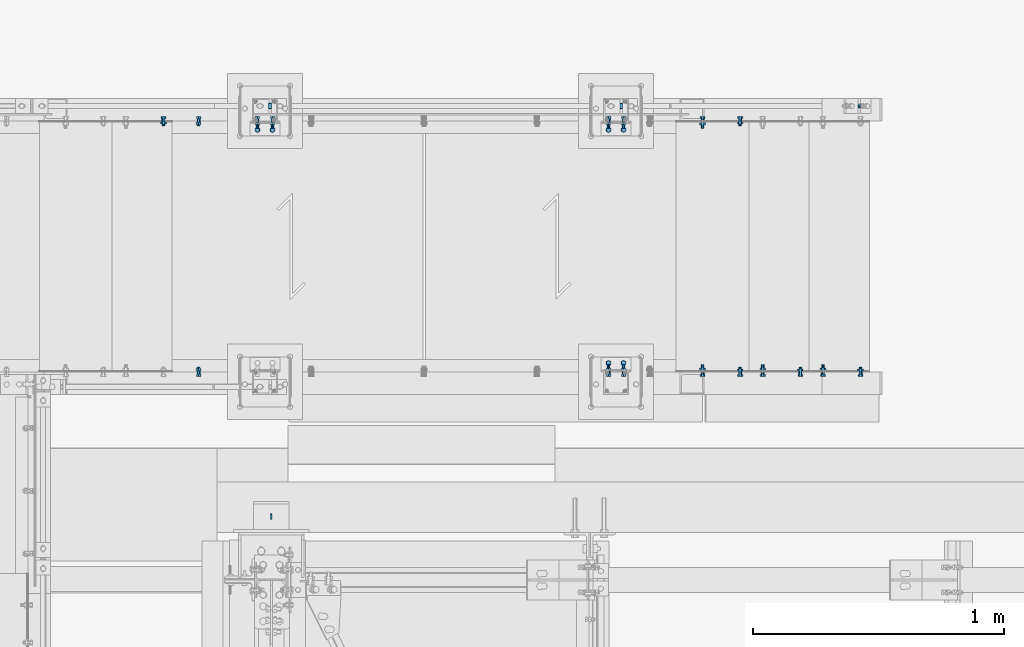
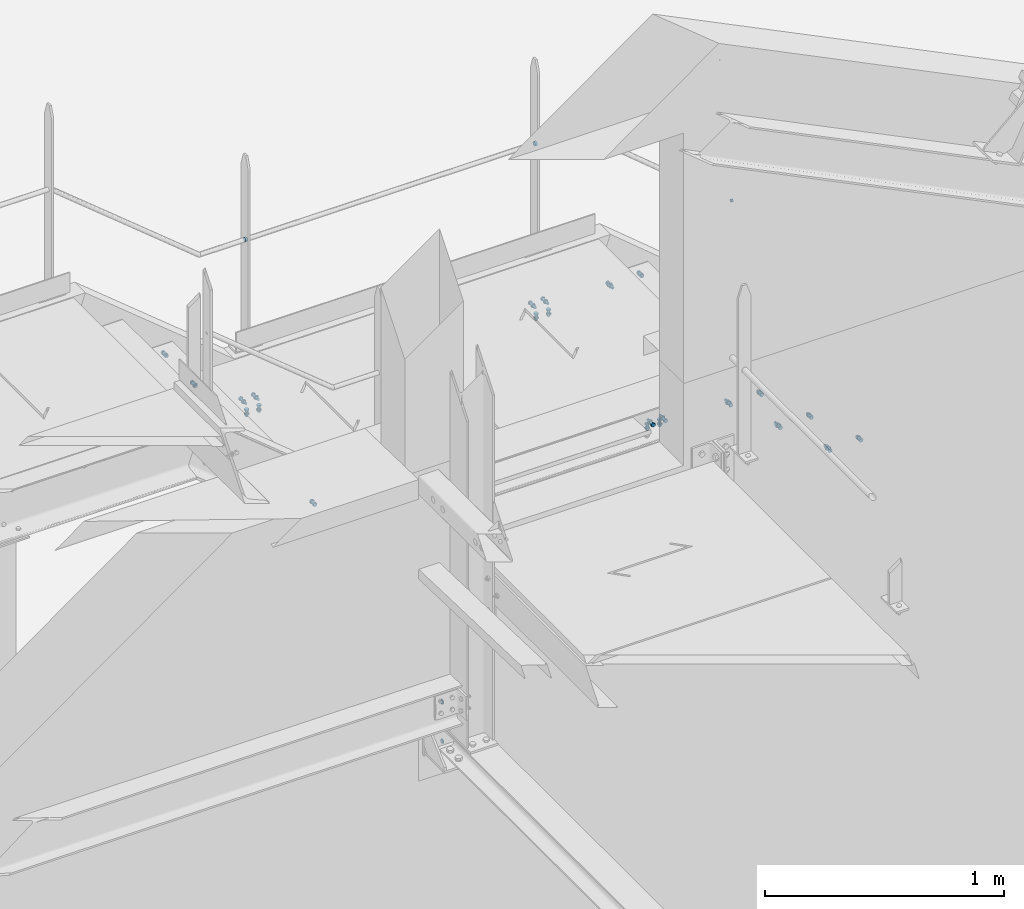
# One storey, part 338 of 362: 22 mechanical fasteners.
"""IFC2X3 building model written with IfcOpenShell, lengths in millimetres."""

from ifc_helpers import new_model, si_unit, frame, frame_2d, origin_with_axes, origin_2d_with_axis, place, context, subcontext, project, spatial, polyline, circle_curve, parameter, trimmed, segment, composite_curve, circle, outline, extrude, source, transform, mapped, material, type_object, element, save


model = new_model("IFC2X3")

# Units and contexts
model_context = context("Model", 3, precision=1e-05, world=origin_with_axes())
body_context = subcontext(model_context, "Body", "Model", "MODEL_VIEW")
ifc_project = project(units=[si_unit("LENGTHUNIT", "METRE", prefix="MILLI"), si_unit("AREAUNIT", "SQUARE_METRE"), si_unit("VOLUMEUNIT", "CUBIC_METRE"), si_unit("MASSUNIT", "GRAM", prefix="KILO"), si_unit("TIMEUNIT", "SECOND"), si_unit("PLANEANGLEUNIT", "RADIAN"), si_unit("SOLIDANGLEUNIT", "STERADIAN"), si_unit("THERMODYNAMICTEMPERATUREUNIT", "DEGREE_CELSIUS"), si_unit("LUMINOUSINTENSITYUNIT", "LUMEN")], contexts=[model_context])

# Site, building, storey
site_placement = place(None, origin_with_axes())
site = spatial("IfcSite", under=ifc_project, at=site_placement, Name="Undefined", CompositionType="ELEMENT")
building_placement = place(site_placement, origin_with_axes())
building = spatial("IfcBuilding", under=site, at=building_placement, Name="Undefined", CompositionType="ELEMENT")
storey_placement = place(building_placement, origin_with_axes())
storey = spatial("IfcBuildingStorey", under=building, at=storey_placement, Name="Undefined", CompositionType="ELEMENT", Elevation=0.0)

# Mechanical fasteners
ifc_material_1 = material(Name="6.8")
mechanical_fastener_type = type_object("IfcMechanicalFastenerType", Name="Bolt assembly")
shared_shape_1 = source(origin_with_axes(), body_context, "Body", "SweptSolid", [
    extrude(circle(Radius=11.0, at=origin_2d_with_axis()), frame((0.0, -5.00000000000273, 0.0), z_axis=(0.0, 1.0, 0.0), x_axis=(1.0, 0.0, 0.0)), (0.0, 0.0, 1.0), 10.1),
])
for number, where, z_axis, x_axis, name in (
    (1, (35675.0061849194, 17089.9938659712, 8653.7999407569), (0.0, 0.0, -1.0), (0.0, -1.0, 0.0), "Bolt assembly"),
    (2, (34275.0061849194, 17089.9938659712, 8653.7999407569), (0.0, 0.0, -1.0), (0.0, -1.0, 0.0), "Bolt assembly"),
):
    element("IfcMechanicalFastener", number, at=place(storey_placement, frame(where, z_axis=z_axis, x_axis=x_axis)), inside=storey, type_object=mechanical_fastener_type, material=ifc_material_1, Name=name, NominalDiameter=20.0, NominalLength=10.0, context=body_context, shape_type="MappedRepresentation", body=[
        mapped(shared_shape_1, transform((0.0, 0.0, 0.0))),
    ])
shared_shape_2 = source(origin_with_axes(), body_context, "Body", "SweptSolid", [
    extrude(circle(Radius=7.0, at=origin_2d_with_axis()), frame((0.0, -10.0000010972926, 0.0), z_axis=(0.0, 1.0, 0.0), x_axis=(1.0, 0.0, 0.0)), (0.0, 0.0, 1.0), 10.1),
])
mechanical_fastener_1_placement = place(storey_placement, frame((36620.0061849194, 17089.9938659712, 8029.89862662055), z_axis=(0.0, 0.0, -1.0), x_axis=(0.0, -1.0, 0.0)))
element("IfcMechanicalFastener", 3, at=mechanical_fastener_1_placement, inside=storey, type_object=mechanical_fastener_type, material=ifc_material_1, Name="Bolt assembly", NominalDiameter=12.0, NominalLength=10.0, context=body_context, shape_type="MappedRepresentation", body=[
    mapped(shared_shape_2, transform((0.0, 0.0, 0.0))),
])
ifc_material_2 = material(Name="8.8-SB-GALVA")
shared_shape_3 = source(origin_with_axes(), body_context, "Body", "SweptSolid", [
    extrude(circle(Radius=7.0, at=origin_2d_with_axis()), frame((0.0, -0.10007666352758, 0.0), z_axis=(0.0, 1.0, 0.0), x_axis=(1.0, 0.0, 0.0)), (0.0, 0.0, 1.0), 8.1),
    extrude(circle(Radius=7.0, at=origin_2d_with_axis()), frame((0.0, -5.8999542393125, 0.0), z_axis=(0.0, 1.0, 0.0), x_axis=(1.0, 0.0, 0.0)), (0.0, 0.0, 1.0), 6.0),
    extrude(outline(polyline([(10.39230484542, 0.0), (5.19615242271, 9.00000000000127), (-5.19615242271, 9.00000000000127), (-10.39230484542, 0.0), (-5.19615242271, -9.00000000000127), (5.19615242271, -9.00000000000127), (10.39230484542, 0.0)])), frame((0.0, -13.9199542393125, 0.0), z_axis=(0.0, 1.0, 0.0), x_axis=(1.0, 0.0, 0.0)), (0.0, 0.0, 1.0), 7.92),
    extrude(circle(Radius=6.0, at=origin_2d_with_axis()), frame((0.0, -5.9999542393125, 0.0), z_axis=(0.0, 1.0, 0.0), x_axis=(1.0, 0.0, 0.0)), (0.0, 0.0, 1.0), 30.0),
    extrude(outline(polyline([(11.5008173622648, 0.0), (5.7504086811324, 9.96000000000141), (-5.7504086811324, 9.96000000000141), (-11.5008173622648, 0.0), (-5.7504086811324, -9.96000000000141), (5.7504086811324, -9.96000000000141), (11.5008173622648, 0.0)])), frame((0.0, 7.99992914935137, 0.0), z_axis=(0.0, 1.0, 0.0), x_axis=(1.0, 0.0, 0.0)), (0.0, 0.0, 1.0), 7.92),
])
mechanical_fastener_2_placement = place(storey_placement, frame((35655.0000000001, 16064.9999136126, 7849.9999407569), z_axis=(1.0, 0.0, 0.0), x_axis=(0.0, -1.0, 0.0)))
element("IfcMechanicalFastener", 4, at=mechanical_fastener_2_placement, inside=storey, type_object=mechanical_fastener_type, material=ifc_material_2, Name="Bolt assembly", NominalDiameter=12.0, NominalLength=30.0, context=body_context, shape_type="MappedRepresentation", body=[
    mapped(shared_shape_3, transform((0.0, 0.0, 30.0))),
    mapped(shared_shape_3, transform((0.0, 0.0, -30.0))),
])
for number, where, z_axis, x_axis, name in (
    (5, (34255.0000000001, 16994.9996684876, 7849.9999407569), (-1.0, 0.0, 0.0), (0.0, 1.0, 0.0), "Bolt assembly"),
    (6, (35655.0000000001, 16994.9996684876, 7849.9999407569), (-1.0, 0.0, 0.0), (0.0, 1.0, 0.0), "Bolt assembly"),
):
    element("IfcMechanicalFastener", number, at=place(storey_placement, frame(where, z_axis=z_axis, x_axis=x_axis)), inside=storey, type_object=mechanical_fastener_type, material=ifc_material_2, Name=name, NominalDiameter=12.0, NominalLength=30.0, context=body_context, shape_type="MappedRepresentation", body=[
        mapped(shared_shape_3, transform((0.0, 0.0, -30.0))),
        mapped(shared_shape_3, transform((0.0, 0.0, 30.0))),
    ])
shared_shape_4 = source(origin_with_axes(), body_context, "Body", "SweptSolid", [
    extrude(circle(Radius=7.0, at=origin_2d_with_axis()), frame((0.0, -9.90024512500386, 0.0), z_axis=(0.0, 1.0, 0.0), x_axis=(1.0, 0.0, 0.0)), (0.0, 0.0, 1.0), 10.0),
    extrude(circle(Radius=7.0, at=origin_2d_with_axis()), frame((0.0, -0.100011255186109, 0.0), z_axis=(0.0, 1.0, 0.0), x_axis=(1.0, 0.0, 0.0)), (0.0, 0.0, 1.0), 6.1),
    extrude(outline(polyline([(10.39230484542, 0.0), (5.19615242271, 9.00000000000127), (-5.19615242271, 9.00000000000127), (-10.39230484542, 0.0), (-5.19615242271, -9.00000000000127), (5.19615242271, -9.00000000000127), (10.39230484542, 0.0)])), frame((0.0, -17.9202451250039, 0.0), z_axis=(0.0, 1.0, 0.0), x_axis=(1.0, 0.0, 0.0)), (0.0, 0.0, 1.0), 7.92),
    extrude(circle(Radius=6.0, at=origin_2d_with_axis()), frame((0.0, -10.0002451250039, 0.0), z_axis=(0.0, 1.0, 0.0), x_axis=(1.0, 0.0, 0.0)), (0.0, 0.0, 1.0), 40.0),
    extrude(outline(polyline([(11.5008173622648, 0.0), (5.7504086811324, 9.96000000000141), (-5.7504086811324, 9.96000000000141), (-11.5008173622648, 0.0), (-5.7504086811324, -9.96000000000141), (5.7504086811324, -9.96000000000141), (11.5008173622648, 0.0)])), frame((0.0, 6.0, 0.0), z_axis=(0.0, 1.0, 0.0), x_axis=(1.0, 0.0, 0.0)), (0.0, 0.0, 1.0), 7.92),
])
mechanical_fastener_3_placement = place(storey_placement, frame((35655.0000000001, 16029.9999136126, 7884.9999407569), z_axis=(1.0, 0.0, 0.0), x_axis=(0.0, 0.0, -1.0)))
element("IfcMechanicalFastener", 7, at=mechanical_fastener_3_placement, inside=storey, type_object=mechanical_fastener_type, material=ifc_material_2, Name="Bolt assembly", NominalDiameter=12.0, NominalLength=40.0, context=body_context, shape_type="MappedRepresentation", body=[
    mapped(shared_shape_4, transform((0.0, 0.0, 30.0))),
    mapped(shared_shape_4, transform((0.0, 0.0, -30.0))),
])
shared_shape_5 = source(origin_with_axes(), body_context, "Body", "SweptSolid", [
    extrude(circle(Radius=7.0, at=origin_2d_with_axis()), frame((0.0, -9.9, 0.0), z_axis=(0.0, 1.0, 0.0), x_axis=(1.0, 0.0, 0.0)), (0.0, 0.0, 1.0), 10.0),
    extrude(circle(Radius=7.0, at=origin_2d_with_axis()), frame((0.0, -0.100011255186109, 0.0), z_axis=(0.0, 1.0, 0.0), x_axis=(1.0, 0.0, 0.0)), (0.0, 0.0, 1.0), 3.1),
    extrude(outline(polyline([(10.39230484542, 0.0), (5.19615242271, 9.00000000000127), (-5.19615242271, 9.00000000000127), (-10.39230484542, 0.0), (-5.19615242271, -9.00000000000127), (5.19615242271, -9.00000000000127), (10.39230484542, 0.0)])), frame((0.0, -17.92, 0.0), z_axis=(0.0, 1.0, 0.0), x_axis=(1.0, 0.0, 0.0)), (0.0, 0.0, 1.0), 7.92),
    extrude(circle(Radius=6.0, at=origin_2d_with_axis()), frame((0.0, -10.0000010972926, 0.0), z_axis=(0.0, 1.0, 0.0), x_axis=(1.0, 0.0, 0.0)), (0.0, 0.0, 1.0), 30.0),
    extrude(outline(polyline([(11.5008173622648, 0.0), (5.7504086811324, 9.96000000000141), (-5.7504086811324, 9.96000000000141), (-11.5008173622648, 0.0), (-5.7504086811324, -9.96000000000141), (5.7504086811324, -9.96000000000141), (11.5008173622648, 0.0)])), frame((0.0, 3.00000067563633, 0.0), z_axis=(0.0, 1.0, 0.0), x_axis=(1.0, 0.0, 0.0)), (0.0, 0.0, 1.0), 7.92),
])
for number, where, z_axis, x_axis, name in (
    (8, (36149.9999902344, 16029.9996684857, 7854.9999407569), (0.0, 0.0, -1.0), (-1.0, 0.0, 0.0), "Bolt assembly"),
    (9, (36389.9999902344, 16029.9996684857, 7655.0), (0.0, 0.0, -1.0), (-1.0, 0.0, 0.0), "Bolt assembly"),
    (10, (36629.9999902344, 16029.9996684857, 7455.0), (0.0, 0.0, -1.0), (-1.0, 0.0, 0.0), "Bolt assembly"),
):
    element("IfcMechanicalFastener", number, at=place(storey_placement, frame(where, z_axis=z_axis, x_axis=x_axis)), inside=storey, type_object=mechanical_fastener_type, material=ifc_material_2, Name=name, NominalDiameter=12.0, NominalLength=30.0, context=body_context, shape_type="MappedRepresentation", body=[
        mapped(shared_shape_5, transform((0.0, 0.0, 0.0))),
    ])
shared_shape_6 = source(origin_with_axes(), body_context, "Body", "SweptSolid", [
    extrude(circle(Radius=7.0, at=origin_2d_with_axis()), frame((0.0, -9.89685977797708, 0.0), z_axis=(0.0, 1.0, 0.0), x_axis=(1.0, 0.0, 0.0)), (0.0, 0.0, 1.0), 10.0),
    extrude(circle(Radius=7.0, at=origin_2d_with_axis()), frame((0.0, -0.100011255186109, 0.0), z_axis=(0.0, 1.0, 0.0), x_axis=(1.0, 0.0, 0.0)), (0.0, 0.0, 1.0), 3.1),
    extrude(outline(polyline([(10.39230484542, 0.0), (5.19615242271, 9.00000000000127), (-5.19615242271, 9.00000000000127), (-10.39230484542, 0.0), (-5.19615242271, -9.00000000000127), (5.19615242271, -9.00000000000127), (10.39230484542, 0.0)])), frame((0.0, -17.9168597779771, 0.0), z_axis=(0.0, 1.0, 0.0), x_axis=(1.0, 0.0, 0.0)), (0.0, 0.0, 1.0), 7.92),
    extrude(circle(Radius=6.0, at=origin_2d_with_axis()), frame((0.0, -9.99685977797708, 0.0), z_axis=(0.0, 1.0, 0.0), x_axis=(1.0, 0.0, 0.0)), (0.0, 0.0, 1.0), 30.0),
    extrude(outline(polyline([(11.5008173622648, 0.0), (5.7504086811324, 9.96000000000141), (-5.7504086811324, 9.96000000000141), (-11.5008173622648, 0.0), (-5.7504086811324, -9.96000000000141), (5.7504086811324, -9.96000000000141), (11.5008173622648, 0.0)])), frame((0.0, 3.00000067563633, 0.0), z_axis=(0.0, 1.0, 0.0), x_axis=(1.0, 0.0, 0.0)), (0.0, 0.0, 1.0), 7.92),
])
mechanical_fastener_4_placement = place(storey_placement, frame((33849.9999902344, 17029.9999136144, 8251.6699407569), z_axis=(0.0, 0.0, 1.0), x_axis=(-1.0, 0.0, 0.0)))
element("IfcMechanicalFastener", 11, at=mechanical_fastener_4_placement, inside=storey, type_object=mechanical_fastener_type, material=ifc_material_2, Name="Bolt assembly", NominalDiameter=12.0, NominalLength=30.0, context=body_context, shape_type="MappedRepresentation", body=[
    mapped(shared_shape_6, transform((0.0, 0.0, 0.0))),
])
shared_shape_7 = source(origin_with_axes(), body_context, "Body", "SweptSolid", [
    extrude(circle(Radius=7.0, at=origin_2d_with_axis()), frame((0.0, -9.89975487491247, 0.0), z_axis=(0.0, 1.0, 0.0), x_axis=(1.0, 0.0, 0.0)), (0.0, 0.0, 1.0), 10.0),
    extrude(outline(composite_curve([segment(polyline([(-7.0, 7.0), (7.0, 7.0)]), True, "CONTINUOUS"), segment(trimmed(circle_curve(frame_2d((7.0, 0.0), x_axis=(0.0, 1.0)), 7.0), [parameter(0.0)], [parameter(3.14159265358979)], False, "PARAMETER"), True, "CONTINUOUS"), segment(polyline([(7.0, -7.0), (-7.0, -7.0)]), True, "CONTINUOUS"), segment(trimmed(circle_curve(frame_2d((-7.0, 0.0), x_axis=(0.0, -1.0)), 7.0), [parameter(0.0)], [parameter(3.14159265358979)], False, "PARAMETER"), True, "DISCONTINUOUS")], self_intersect=False)), frame((0.0, -0.100011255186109, 0.0), z_axis=(0.0, 1.0, 0.0), x_axis=(1.0, 0.0, 0.0)), (0.0, 0.0, 1.0), 3.1),
    extrude(outline(polyline([(10.39230484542, 0.0), (5.19615242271, 9.00000000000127), (-5.19615242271, 9.00000000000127), (-10.39230484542, 0.0), (-5.19615242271, -9.00000000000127), (5.19615242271, -9.00000000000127), (10.39230484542, 0.0)])), frame((0.0, -17.9197548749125, 0.0), z_axis=(0.0, 1.0, 0.0), x_axis=(1.0, 0.0, 0.0)), (0.0, 0.0, 1.0), 7.92),
    extrude(circle(Radius=6.0, at=origin_2d_with_axis()), frame((0.0, -9.99975487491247, 0.0), z_axis=(0.0, 1.0, 0.0), x_axis=(1.0, 0.0, 0.0)), (0.0, 0.0, 1.0), 40.0),
    extrude(circle(Radius=10.8, at=origin_2d_with_axis()), frame((0.0, 3.00000067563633, 0.0), z_axis=(0.0, 1.0, 0.0), x_axis=(1.0, 0.0, 0.0)), (0.0, 0.0, 1.0), 3.96),
    extrude(outline(polyline([(11.5008173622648, 0.0), (5.7504086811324, 9.96000000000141), (-5.7504086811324, 9.96000000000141), (-11.5008173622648, 0.0), (-5.7504086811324, -9.96000000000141), (5.7504086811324, -9.96000000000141), (11.5008173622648, 0.0)])), frame((0.0, 6.96, 0.0), z_axis=(0.0, 1.0, 0.0), x_axis=(1.0, 0.0, 0.0)), (0.0, 0.0, 1.0), 7.92),
])
mechanical_fastener_5_placement = place(storey_placement, frame((35999.9999902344, 17029.9999136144, 7854.9999407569), z_axis=(0.0, 0.0, 1.0), x_axis=(-1.0, 0.0, 0.0)))
element("IfcMechanicalFastener", 12, at=mechanical_fastener_5_placement, inside=storey, type_object=mechanical_fastener_type, material=ifc_material_2, Name="Bolt assembly", NominalDiameter=12.0, NominalLength=40.0, context=body_context, shape_type="MappedRepresentation", body=[
    mapped(shared_shape_7, transform((0.0, 0.0, 0.0))),
])
shared_shape_8 = source(origin_with_axes(), body_context, "Body", "SweptSolid", [
    extrude(circle(Radius=7.0, at=origin_2d_with_axis()), frame((0.0, -9.89975487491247, 0.0), z_axis=(0.0, 1.0, 0.0), x_axis=(1.0, 0.0, 0.0)), (0.0, 0.0, 1.0), 10.0),
    extrude(circle(Radius=7.0, at=origin_2d_with_axis()), frame((0.0, -0.100011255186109, 0.0), z_axis=(0.0, 1.0, 0.0), x_axis=(1.0, 0.0, 0.0)), (0.0, 0.0, 1.0), 3.1),
    extrude(outline(polyline([(10.39230484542, 0.0), (5.19615242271, 9.00000000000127), (-5.19615242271, 9.00000000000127), (-10.39230484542, 0.0), (-5.19615242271, -9.00000000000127), (5.19615242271, -9.00000000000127), (10.39230484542, 0.0)])), frame((0.0, -17.9197548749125, 0.0), z_axis=(0.0, 1.0, 0.0), x_axis=(1.0, 0.0, 0.0)), (0.0, 0.0, 1.0), 7.92),
    extrude(circle(Radius=6.0, at=origin_2d_with_axis()), frame((0.0, -9.99975487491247, 0.0), z_axis=(0.0, 1.0, 0.0), x_axis=(1.0, 0.0, 0.0)), (0.0, 0.0, 1.0), 30.0),
    extrude(outline(polyline([(11.5008173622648, 0.0), (5.7504086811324, 9.96000000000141), (-5.7504086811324, 9.96000000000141), (-11.5008173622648, 0.0), (-5.7504086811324, -9.96000000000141), (5.7504086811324, -9.96000000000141), (11.5008173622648, 0.0)])), frame((0.0, 3.00000067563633, 0.0), z_axis=(0.0, 1.0, 0.0), x_axis=(1.0, 0.0, 0.0)), (0.0, 0.0, 1.0), 7.92),
])
mechanical_fastener_6_placement = place(storey_placement, frame((36149.9999902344, 17029.9999136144, 7854.9999407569), z_axis=(0.0, 0.0, 1.0), x_axis=(-1.0, 0.0, 0.0)))
element("IfcMechanicalFastener", 13, at=mechanical_fastener_6_placement, inside=storey, type_object=mechanical_fastener_type, material=ifc_material_2, Name="Bolt assembly", NominalDiameter=12.0, NominalLength=30.0, context=body_context, shape_type="MappedRepresentation", body=[
    mapped(shared_shape_8, transform((0.0, 0.0, 0.0))),
])
shared_shape_9 = source(origin_with_axes(), body_context, "Body", "SweptSolid", [
    extrude(circle(Radius=7.0, at=origin_2d_with_axis()), frame((0.0, -9.9, 0.0), z_axis=(0.0, 1.0, 0.0), x_axis=(1.0, 0.0, 0.0)), (0.0, 0.0, 1.0), 10.0),
    extrude(outline(composite_curve([segment(polyline([(-7.0, 7.0), (7.0, 7.0)]), True, "CONTINUOUS"), segment(trimmed(circle_curve(frame_2d((7.0, 0.0), x_axis=(0.0, 1.0)), 7.0), [parameter(0.0)], [parameter(3.14159265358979)], False, "PARAMETER"), True, "CONTINUOUS"), segment(polyline([(7.0, -7.0), (-7.0, -7.0)]), True, "CONTINUOUS"), segment(trimmed(circle_curve(frame_2d((-7.0, 0.0), x_axis=(0.0, -1.0)), 7.0), [parameter(0.0)], [parameter(3.14159265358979)], False, "PARAMETER"), True, "DISCONTINUOUS")], self_intersect=False)), frame((0.0, -0.100011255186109, 0.0), z_axis=(0.0, 1.0, 0.0), x_axis=(1.0, 0.0, 0.0)), (0.0, 0.0, 1.0), 3.1),
    extrude(outline(polyline([(10.39230484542, 0.0), (5.19615242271, 9.00000000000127), (-5.19615242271, 9.00000000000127), (-10.39230484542, 0.0), (-5.19615242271, -9.00000000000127), (5.19615242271, -9.00000000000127), (10.39230484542, 0.0)])), frame((0.0, -17.92, 0.0), z_axis=(0.0, 1.0, 0.0), x_axis=(1.0, 0.0, 0.0)), (0.0, 0.0, 1.0), 7.92),
    extrude(circle(Radius=6.0, at=origin_2d_with_axis()), frame((0.0, -10.0000010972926, 0.0), z_axis=(0.0, 1.0, 0.0), x_axis=(1.0, 0.0, 0.0)), (0.0, 0.0, 1.0), 40.0),
    extrude(circle(Radius=10.8, at=origin_2d_with_axis()), frame((0.0, 3.00000067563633, 0.0), z_axis=(0.0, 1.0, 0.0), x_axis=(1.0, 0.0, 0.0)), (0.0, 0.0, 1.0), 3.96),
    extrude(outline(polyline([(11.5008173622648, 0.0), (5.7504086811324, 9.96000000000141), (-5.7504086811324, 9.96000000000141), (-11.5008173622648, 0.0), (-5.7504086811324, -9.96000000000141), (5.7504086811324, -9.96000000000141), (11.5008173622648, 0.0)])), frame((0.0, 6.96, 0.0), z_axis=(0.0, 1.0, 0.0), x_axis=(1.0, 0.0, 0.0)), (0.0, 0.0, 1.0), 7.92),
])
mechanical_fastener_7_placement = place(storey_placement, frame((35999.9999902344, 16029.9996684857, 7854.9999407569), z_axis=(0.0, 0.0, -1.0), x_axis=(-1.0, 0.0, 0.0)))
element("IfcMechanicalFastener", 14, at=mechanical_fastener_7_placement, inside=storey, type_object=mechanical_fastener_type, material=ifc_material_2, Name="Bolt assembly", NominalDiameter=12.0, NominalLength=40.0, context=body_context, shape_type="MappedRepresentation", body=[
    mapped(shared_shape_9, transform((0.0, 0.0, 0.0))),
])
shared_shape_10 = source(origin_with_axes(), body_context, "Body", "SweptSolid", [
    extrude(circle(Radius=7.0, at=origin_2d_with_axis()), frame((0.0, -9.9, 0.0), z_axis=(0.0, 1.0, 0.0), x_axis=(1.0, 0.0, 0.0)), (0.0, 0.0, 1.0), 10.0),
    extrude(outline(composite_curve([segment(polyline([(-7.0, 7.0), (7.0, 7.0)]), True, "CONTINUOUS"), segment(trimmed(circle_curve(frame_2d((7.0, 0.0), x_axis=(0.0, 1.0)), 7.0), [parameter(0.0)], [parameter(3.14159265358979)], False, "PARAMETER"), True, "CONTINUOUS"), segment(polyline([(7.0, -7.0), (-7.0, -7.0)]), True, "CONTINUOUS"), segment(trimmed(circle_curve(frame_2d((-7.0, 0.0), x_axis=(0.0, -1.0)), 7.0), [parameter(0.0)], [parameter(3.14159265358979)], False, "PARAMETER"), True, "DISCONTINUOUS")], self_intersect=False)), frame((0.0, -0.100011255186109, 0.0), z_axis=(0.0, 1.0, 0.0), x_axis=(1.0, 0.0, 0.0)), (0.0, 0.0, 1.0), 3.1),
    extrude(outline(polyline([(10.39230484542, 0.0), (5.19615242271, 9.00000000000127), (-5.19615242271, 9.00000000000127), (-10.39230484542, 0.0), (-5.19615242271, -9.00000000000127), (5.19615242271, -9.00000000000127), (10.39230484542, 0.0)])), frame((0.0, -17.92, 0.0), z_axis=(0.0, 1.0, 0.0), x_axis=(1.0, 0.0, 0.0)), (0.0, 0.0, 1.0), 7.92),
    extrude(circle(Radius=6.0, at=origin_2d_with_axis()), frame((0.0, -10.0000010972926, 0.0), z_axis=(0.0, 1.0, 0.0), x_axis=(1.0, 0.0, 0.0)), (0.0, 0.0, 1.0), 40.0),
    extrude(circle(Radius=10.8, at=origin_2d_with_axis()), frame((0.0, 3.00000067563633, 0.0), z_axis=(0.0, 1.0, 0.0), x_axis=(1.0, 0.0, 0.0)), (0.0, 0.0, 1.0), 3.96),
    extrude(outline(polyline([(11.5008173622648, 0.0), (5.7504086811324, 9.96000000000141), (-5.7504086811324, 9.96000000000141), (-11.5008173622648, 0.0), (-5.7504086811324, -9.96000000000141), (5.7504086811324, -9.96000000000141), (11.5008173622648, 0.0)])), frame((0.0, 6.96, 0.0), z_axis=(0.0, 1.0, 0.0), x_axis=(1.0, 0.0, 0.0)), (0.0, 0.0, 1.0), 7.92),
])
mechanical_fastener_8_placement = place(storey_placement, frame((36239.9999902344, 16029.9996684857, 7655.0), z_axis=(0.0, 0.0, -1.0), x_axis=(-1.0, 0.0, 0.0)))
element("IfcMechanicalFastener", 15, at=mechanical_fastener_8_placement, inside=storey, type_object=mechanical_fastener_type, material=ifc_material_2, Name="Bolt assembly", NominalDiameter=12.0, NominalLength=40.0, context=body_context, shape_type="MappedRepresentation", body=[
    mapped(shared_shape_10, transform((0.0, 0.0, 0.0))),
])
shared_shape_11 = source(origin_with_axes(), body_context, "Body", "SweptSolid", [
    extrude(circle(Radius=7.0, at=origin_2d_with_axis()), frame((0.0, -9.9, 0.0), z_axis=(0.0, 1.0, 0.0), x_axis=(1.0, 0.0, 0.0)), (0.0, 0.0, 1.0), 10.0),
    extrude(outline(composite_curve([segment(polyline([(-7.0, 7.0), (7.0, 7.0)]), True, "CONTINUOUS"), segment(trimmed(circle_curve(frame_2d((7.0, 0.0), x_axis=(0.0, 1.0)), 7.0), [parameter(0.0)], [parameter(3.14159265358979)], False, "PARAMETER"), True, "CONTINUOUS"), segment(polyline([(7.0, -7.0), (-7.0, -7.0)]), True, "CONTINUOUS"), segment(trimmed(circle_curve(frame_2d((-7.0, 0.0), x_axis=(0.0, -1.0)), 7.0), [parameter(0.0)], [parameter(3.14159265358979)], False, "PARAMETER"), True, "DISCONTINUOUS")], self_intersect=False)), frame((0.0, -0.100011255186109, 0.0), z_axis=(0.0, 1.0, 0.0), x_axis=(1.0, 0.0, 0.0)), (0.0, 0.0, 1.0), 3.1),
    extrude(outline(polyline([(10.39230484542, 0.0), (5.19615242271, 9.00000000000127), (-5.19615242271, 9.00000000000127), (-10.39230484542, 0.0), (-5.19615242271, -9.00000000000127), (5.19615242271, -9.00000000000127), (10.39230484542, 0.0)])), frame((0.0, -17.92, 0.0), z_axis=(0.0, 1.0, 0.0), x_axis=(1.0, 0.0, 0.0)), (0.0, 0.0, 1.0), 7.92),
    extrude(circle(Radius=6.0, at=origin_2d_with_axis()), frame((0.0, -10.0000010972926, 0.0), z_axis=(0.0, 1.0, 0.0), x_axis=(1.0, 0.0, 0.0)), (0.0, 0.0, 1.0), 40.0),
    extrude(circle(Radius=10.8, at=origin_2d_with_axis()), frame((0.0, 3.00000067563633, 0.0), z_axis=(0.0, 1.0, 0.0), x_axis=(1.0, 0.0, 0.0)), (0.0, 0.0, 1.0), 3.96),
    extrude(outline(polyline([(11.5008173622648, 0.0), (5.7504086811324, 9.96000000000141), (-5.7504086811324, 9.96000000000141), (-11.5008173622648, 0.0), (-5.7504086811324, -9.96000000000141), (5.7504086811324, -9.96000000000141), (11.5008173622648, 0.0)])), frame((0.0, 6.96, 0.0), z_axis=(0.0, 1.0, 0.0), x_axis=(1.0, 0.0, 0.0)), (0.0, 0.0, 1.0), 7.92),
])
mechanical_fastener_9_placement = place(storey_placement, frame((36479.9999902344, 16029.9996684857, 7455.0), z_axis=(0.0, 0.0, -1.0), x_axis=(-1.0, 0.0, 0.0)))
element("IfcMechanicalFastener", 16, at=mechanical_fastener_9_placement, inside=storey, type_object=mechanical_fastener_type, material=ifc_material_2, Name="Bolt assembly", NominalDiameter=12.0, NominalLength=40.0, context=body_context, shape_type="MappedRepresentation", body=[
    mapped(shared_shape_11, transform((0.0, 0.0, 0.0))),
])
shared_shape_12 = source(origin_with_axes(), body_context, "Body", "SweptSolid", [
    extrude(circle(Radius=7.0, at=origin_2d_with_axis()), frame((0.0, -9.89792082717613, 0.0), z_axis=(0.0, 1.0, 0.0), x_axis=(1.0, 0.0, 0.0)), (0.0, 0.0, 1.0), 10.0),
    extrude(circle(Radius=7.0, at=origin_2d_with_axis()), frame((0.0, -0.100011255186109, 0.0), z_axis=(0.0, 1.0, 0.0), x_axis=(1.0, 0.0, 0.0)), (0.0, 0.0, 1.0), 6.1),
    extrude(outline(polyline([(10.39230484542, 0.0), (5.19615242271, 9.00000000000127), (-5.19615242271, 9.00000000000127), (-10.39230484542, 0.0), (-5.19615242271, -9.00000000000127), (5.19615242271, -9.00000000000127), (10.39230484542, 0.0)])), frame((0.0, -17.9179208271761, 0.0), z_axis=(0.0, 1.0, 0.0), x_axis=(1.0, 0.0, 0.0)), (0.0, 0.0, 1.0), 7.92),
    extrude(circle(Radius=6.0, at=origin_2d_with_axis()), frame((0.0, -9.99792082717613, 0.0), z_axis=(0.0, 1.0, 0.0), x_axis=(1.0, 0.0, 0.0)), (0.0, 0.0, 1.0), 40.0),
    extrude(outline(polyline([(11.5008173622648, 0.0), (5.7504086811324, 9.96000000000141), (-5.7504086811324, 9.96000000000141), (-11.5008173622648, 0.0), (-5.7504086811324, -9.96000000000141), (5.7504086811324, -9.96000000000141), (11.5008173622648, 0.0)])), frame((0.0, 6.0, 0.0), z_axis=(0.0, 1.0, 0.0), x_axis=(1.0, 0.0, 0.0)), (0.0, 0.0, 1.0), 7.92),
])
mechanical_fastener_10_placement = place(storey_placement, frame((34255.0000000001, 17029.9996684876, 7884.9999407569), z_axis=(-1.0, 0.0, 0.0), x_axis=(0.0, 0.0, -1.0)))
element("IfcMechanicalFastener", 17, at=mechanical_fastener_10_placement, inside=storey, type_object=mechanical_fastener_type, material=ifc_material_2, Name="Bolt assembly", NominalDiameter=12.0, NominalLength=40.0, context=body_context, shape_type="MappedRepresentation", body=[
    mapped(shared_shape_12, transform((0.0, 0.0, -30.0))),
    mapped(shared_shape_12, transform((0.0, 0.0, 30.0))),
])
shared_shape_13 = source(origin_with_axes(), body_context, "Body", "SweptSolid", [
    extrude(circle(Radius=7.0, at=origin_2d_with_axis()), frame((0.0, -9.89714953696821, 0.0), z_axis=(0.0, 1.0, 0.0), x_axis=(1.0, 0.0, 0.0)), (0.0, 0.0, 1.0), 10.0),
    extrude(circle(Radius=7.0, at=origin_2d_with_axis()), frame((0.0, -0.100011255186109, 0.0), z_axis=(0.0, 1.0, 0.0), x_axis=(1.0, 0.0, 0.0)), (0.0, 0.0, 1.0), 5.1),
    extrude(outline(polyline([(10.39230484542, 0.0), (5.19615242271, 9.00000000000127), (-5.19615242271, 9.00000000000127), (-10.39230484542, 0.0), (-5.19615242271, -9.00000000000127), (5.19615242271, -9.00000000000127), (10.39230484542, 0.0)])), frame((0.0, -17.9171495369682, 0.0), z_axis=(0.0, 1.0, 0.0), x_axis=(1.0, 0.0, 0.0)), (0.0, 0.0, 1.0), 7.92),
    extrude(circle(Radius=6.0, at=origin_2d_with_axis()), frame((0.0, -9.99714953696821, 0.0), z_axis=(0.0, 1.0, 0.0), x_axis=(1.0, 0.0, 0.0)), (0.0, 0.0, 1.0), 30.0),
    extrude(outline(polyline([(11.5008173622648, 0.0), (5.7504086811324, 9.96000000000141), (-5.7504086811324, 9.96000000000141), (-11.5008173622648, 0.0), (-5.7504086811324, -9.96000000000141), (5.7504086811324, -9.96000000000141), (11.5008173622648, 0.0)])), frame((0.0, 5.0, 0.0), z_axis=(0.0, 1.0, 0.0), x_axis=(1.0, 0.0, 0.0)), (0.0, 0.0, 1.0), 7.92),
])
mechanical_fastener_11_placement = place(storey_placement, frame((33989.9999902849, 17029.999913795, 8049.9999407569), z_axis=(1.0, 0.0, 0.0), x_axis=(0.0, 0.0, 1.0)))
element("IfcMechanicalFastener", 18, at=mechanical_fastener_11_placement, inside=storey, type_object=mechanical_fastener_type, material=ifc_material_2, Name="Bolt assembly", NominalDiameter=12.0, NominalLength=30.0, context=body_context, shape_type="MappedRepresentation", body=[
    mapped(shared_shape_13, transform((0.0, 0.0, 0.0))),
])
shared_shape_14 = source(origin_with_axes(), body_context, "Body", "SweptSolid", [
    extrude(circle(Radius=7.0, at=origin_2d_with_axis()), frame((0.0, -9.9, 0.0), z_axis=(0.0, 1.0, 0.0), x_axis=(1.0, 0.0, 0.0)), (0.0, 0.0, 1.0), 10.0),
    extrude(circle(Radius=7.0, at=origin_2d_with_axis()), frame((0.0, -0.100011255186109, 0.0), z_axis=(0.0, 1.0, 0.0), x_axis=(1.0, 0.0, 0.0)), (0.0, 0.0, 1.0), 5.1),
    extrude(outline(polyline([(10.39230484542, 0.0), (5.19615242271, 9.00000000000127), (-5.19615242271, 9.00000000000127), (-10.39230484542, 0.0), (-5.19615242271, -9.00000000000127), (5.19615242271, -9.00000000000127), (10.39230484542, 0.0)])), frame((0.0, -17.92, 0.0), z_axis=(0.0, 1.0, 0.0), x_axis=(1.0, 0.0, 0.0)), (0.0, 0.0, 1.0), 7.92),
    extrude(circle(Radius=6.0, at=origin_2d_with_axis()), frame((0.0, -10.0000010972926, 0.0), z_axis=(0.0, 1.0, 0.0), x_axis=(1.0, 0.0, 0.0)), (0.0, 0.0, 1.0), 30.0),
    extrude(outline(polyline([(11.5008173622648, 0.0), (5.7504086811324, 9.96000000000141), (-5.7504086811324, 9.96000000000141), (-11.5008173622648, 0.0), (-5.7504086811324, -9.96000000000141), (5.7504086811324, -9.96000000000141), (11.5008173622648, 0.0)])), frame((0.0, 5.0, 0.0), z_axis=(0.0, 1.0, 0.0), x_axis=(1.0, 0.0, 0.0)), (0.0, 0.0, 1.0), 7.92),
])
mechanical_fastener_12_placement = place(storey_placement, frame((33989.9999902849, 16029.9996683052, 8049.9999407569), z_axis=(-1.0, 0.0, 0.0), x_axis=(0.0, 0.0, 1.0)))
element("IfcMechanicalFastener", 19, at=mechanical_fastener_12_placement, inside=storey, type_object=mechanical_fastener_type, material=ifc_material_2, Name="Bolt assembly", NominalDiameter=12.0, NominalLength=30.0, context=body_context, shape_type="MappedRepresentation", body=[
    mapped(shared_shape_14, transform((0.0, 0.0, 0.0))),
])
shared_shape_15 = source(origin_with_axes(), body_context, "Body", "SweptSolid", [
    extrude(circle(Radius=7.0, at=origin_2d_with_axis()), frame((0.0, -9.8996134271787, 0.0), z_axis=(0.0, 1.0, 0.0), x_axis=(1.0, 0.0, 0.0)), (0.0, 0.0, 1.0), 10.0),
    extrude(circle(Radius=7.0, at=origin_2d_with_axis()), frame((0.0, -0.100011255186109, 0.0), z_axis=(0.0, 1.0, 0.0), x_axis=(1.0, 0.0, 0.0)), (0.0, 0.0, 1.0), 6.1),
    extrude(outline(polyline([(10.39230484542, 0.0), (5.19615242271, 9.00000000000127), (-5.19615242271, 9.00000000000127), (-10.39230484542, 0.0), (-5.19615242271, -9.00000000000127), (5.19615242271, -9.00000000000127), (10.39230484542, 0.0)])), frame((0.0, -17.9196134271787, 0.0), z_axis=(0.0, 1.0, 0.0), x_axis=(1.0, 0.0, 0.0)), (0.0, 0.0, 1.0), 7.92),
    extrude(circle(Radius=6.0, at=origin_2d_with_axis()), frame((0.0, -9.9996134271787, 0.0), z_axis=(0.0, 1.0, 0.0), x_axis=(1.0, 0.0, 0.0)), (0.0, 0.0, 1.0), 40.0),
    extrude(outline(polyline([(11.5008173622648, 0.0), (5.7504086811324, 9.96000000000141), (-5.7504086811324, 9.96000000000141), (-11.5008173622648, 0.0), (-5.7504086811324, -9.96000000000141), (5.7504086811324, -9.96000000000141), (11.5008173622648, 0.0)])), frame((0.0, 6.0, 0.0), z_axis=(0.0, 1.0, 0.0), x_axis=(1.0, 0.0, 0.0)), (0.0, 0.0, 1.0), 7.92),
])
mechanical_fastener_13_placement = place(storey_placement, frame((35655.0000000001, 17029.9996684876, 7884.9999407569), z_axis=(-1.0, 0.0, 0.0), x_axis=(0.0, 0.0, -1.0)))
element("IfcMechanicalFastener", 20, at=mechanical_fastener_13_placement, inside=storey, type_object=mechanical_fastener_type, material=ifc_material_2, Name="Bolt assembly", NominalDiameter=12.0, NominalLength=40.0, context=body_context, shape_type="MappedRepresentation", body=[
    mapped(shared_shape_15, transform((0.0, 0.0, -30.0))),
    mapped(shared_shape_15, transform((0.0, 0.0, 30.0))),
])
shared_shape_16 = source(origin_with_axes(), body_context, "Body", "SweptSolid", [
    extrude(circle(Radius=11.0, at=origin_2d_with_axis()), frame((0.0, -2.74999998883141, 0.0), z_axis=(0.0, 1.0, 0.0), x_axis=(1.0, 0.0, 0.0)), (0.0, 0.0, 1.0), 5.6),
])
for number, where, z_axis, x_axis, name in (
    (21, (34280.0000000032, 15452.0000000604, 7079.99830350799), (0.0, 0.0, 1.0), (0.0, -1.0, 0.0), "Bolt assembly"),
    (22, (34280.0000000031, 15452.0000000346, 7279.99830350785), (0.0, 0.0, 1.0), (0.0, -1.0, 0.0), "Bolt assembly"),
):
    element("IfcMechanicalFastener", number, at=place(storey_placement, frame(where, z_axis=z_axis, x_axis=x_axis)), inside=storey, type_object=mechanical_fastener_type, material=ifc_material_1, Name=name, NominalDiameter=20.0, NominalLength=5.5, context=body_context, shape_type="MappedRepresentation", body=[
        mapped(shared_shape_16, transform((0.0, 0.0, 0.0))),
    ])

save(model, "model.ifc")
